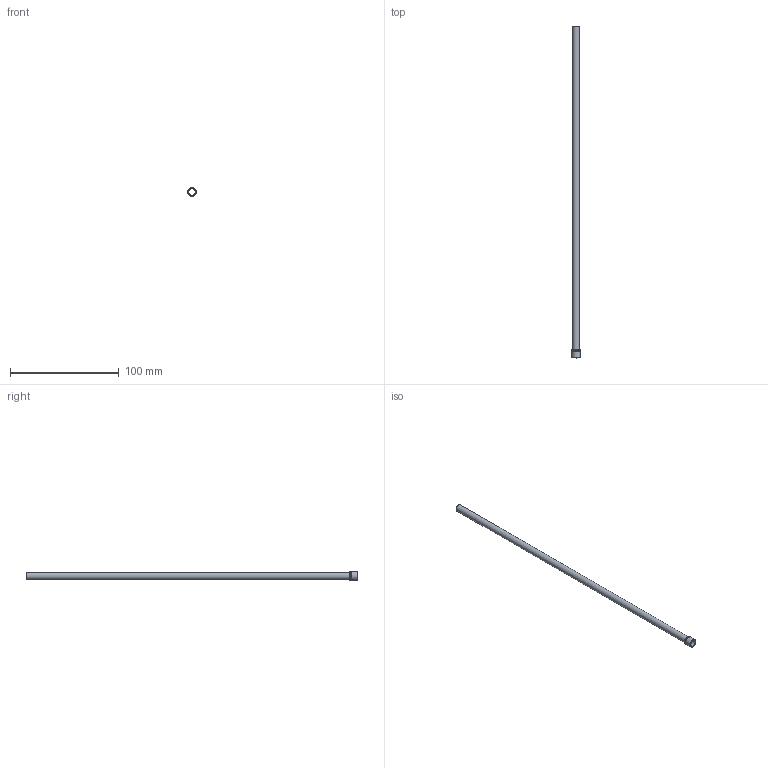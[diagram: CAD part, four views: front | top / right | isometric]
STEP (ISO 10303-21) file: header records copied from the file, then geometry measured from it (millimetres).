
FILE_DESCRIPTION(/* description */ (''),/* implementation_level */ '2;1');
FILE_NAME(/* name */ 'C:/Users/drich/Desktop/HF250T-12 v1.step',/* time_stamp */ '2019-12-30T13:26:34-06:00',/* author */ (''),/* organization */ (''),/* preprocessor_version */ 'ST-DEVELOPER v18',/* originating_system */ 'Autodesk Translation Framework v8.12.0.6',/* authorisation */ '');
FILE_SCHEMA (('AUTOMOTIVE_DESIGN { 1 0 10303 214 3 1 1 }'));
Length unit declared in the file: inch
Products named in the file (1): HF250T-12
Bounding box: 7.98 x 304.8 x 7.98 mm (x, y, z)
Volume: 1604.4 mm3; surface area: 11745.2 mm2
Topology: 1 solids, 1 shells, 12 faces, 30 edges, 22 vertices
Faces by surface type: plane 4, cylinder 4, torus 3, cone 1
Full cylindrical faces by diameter (mm): 5.842 x1, 6.35 x1, 7.818 x1, 7.976 x1
Entity records: 426 total; most frequent: DIRECTION 81, CARTESIAN_POINT 65, ORIENTED_EDGE 60, AXIS2_PLACEMENT_3D 38, EDGE_CURVE 30, CIRCLE 25, VERTEX_POINT 22, EDGE_LOOP 16
